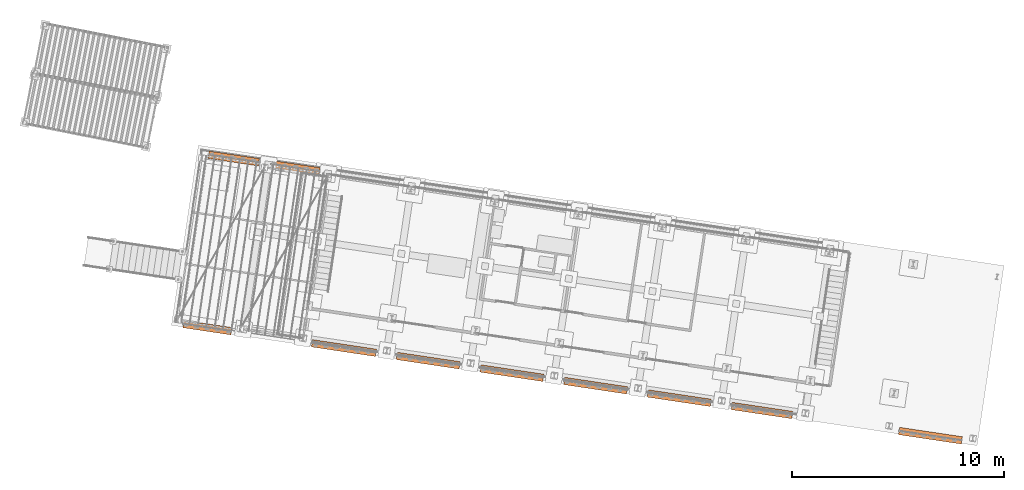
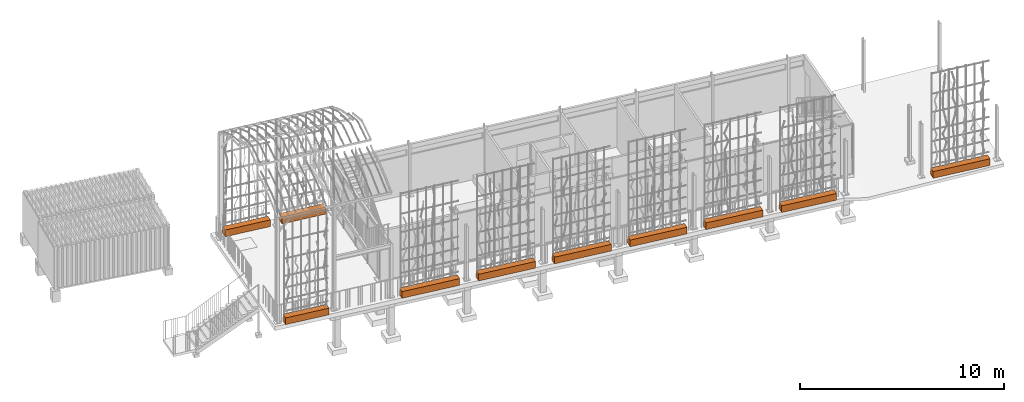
# One storey, part 142 of 142: 10 proxies, 1 element without a shape of its own.
"""IFC4 building model written with IfcOpenShell, lengths in metres."""

from ifc_helpers import new_model, si_unit, direction, frame, origin_with_axes, place, context, subcontext, project, spatial, polyline, outline, extrude, material, element, aggregate, save


model = new_model("IFC4")

# Units and contexts
model_context = context("Model", 3, precision=1e-05, world=origin_with_axes(), true_north=direction((0.0, 1.0)))
body_context = subcontext(model_context, "Body", "Model", "MODEL_VIEW")
ifc_project = project(units=[si_unit("LENGTHUNIT", "METRE"), si_unit("AREAUNIT", "SQUARE_METRE"), si_unit("VOLUMEUNIT", "CUBIC_METRE")], contexts=[model_context])

# Site, building, storey
site_placement = place(None, origin_with_axes())
site = spatial("IfcSite", under=ifc_project, at=site_placement, Name="Lares · Rua das Mercês · artigo 4771")
building_placement = place(site_placement, frame((15.0, 9.7, 14.65), z_axis=(0.0, 0.0, 1.0), x_axis=(0.989015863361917, -0.147809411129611, 0.0)))
building = spatial("IfcBuilding", under=site, at=building_placement, Name="Casa Sobreposta")
storey_placement = place(building_placement, origin_with_axes())
storey = spatial("IfcBuildingStorey", under=building, at=storey_placement, Name="00 · Habitação e estacionamento", Elevation=14.65)

# Assembly, proxies
assembly_placement = place(storey_placement, origin_with_axes())
assembly = element("IfcElementAssembly", 1, at=assembly_placement, inside=storey, Name="Fachada sul e pátio · estrutura e trepadeiras", ObjectType="LIVING_SHADE_TRELLIS", PredefinedType="USERDEFINED")
ifc_material = material(Name="Betão armado / Stahlbeton", Category="concrete")
proxy_1_placement = place(assembly_placement, frame((0.0, 0.0, -0.04), z_axis=(0.0, 0.0, 1.0), x_axis=(1.0, 0.0, 0.0)))
proxy_1 = element("IfcBuildingElementProxy", 2, at=proxy_1_placement, material=ifc_material, Name="Trepadeiras · floreira", ObjectType="Trepadeiras · floreira", PredefinedType="USERDEFINED", context=body_context, shape_type="SweptSolid", body=[
    extrude(outline(polyline([(-3.4, -1.785), (-3.4, -1.435), (-5.7, -1.435), (-5.7, -1.785), (-3.4, -1.785)])), origin_with_axes(), (0.0, 0.0, 1.0), 0.4),
])
proxy_2_placement = place(assembly_placement, frame((0.0, 0.0, -0.04), z_axis=(0.0, 0.0, 1.0), x_axis=(1.0, 0.0, 0.0)))
proxy_2 = element("IfcBuildingElementProxy", 3, at=proxy_2_placement, material=ifc_material, Name="Trepadeiras · floreira", ObjectType="Trepadeiras · floreira", PredefinedType="USERDEFINED", context=body_context, shape_type="SweptSolid", body=[
    extrude(outline(polyline([(3.5, -1.785), (3.5, -1.435), (0.45, -1.435), (0.45, -1.785), (3.5, -1.785)])), origin_with_axes(), (0.0, 0.0, 1.0), 0.4),
])
proxy_3_placement = place(assembly_placement, frame((0.0, 0.0, -0.04), z_axis=(0.0, 0.0, 1.0), x_axis=(1.0, 0.0, 0.0)))
proxy_3 = element("IfcBuildingElementProxy", 4, at=proxy_3_placement, material=ifc_material, Name="Trepadeiras · floreira", ObjectType="Trepadeiras · floreira", PredefinedType="USERDEFINED", context=body_context, shape_type="SweptSolid", body=[
    extrude(outline(polyline([(7.5, -1.785), (7.5, -1.435), (4.5, -1.435), (4.5, -1.785), (7.5, -1.785)])), origin_with_axes(), (0.0, 0.0, 1.0), 0.4),
])
proxy_4_placement = place(assembly_placement, frame((0.0, 0.0, -0.04), z_axis=(0.0, 0.0, 1.0), x_axis=(1.0, 0.0, 0.0)))
proxy_4 = element("IfcBuildingElementProxy", 5, at=proxy_4_placement, material=ifc_material, Name="Trepadeiras · floreira", ObjectType="Trepadeiras · floreira", PredefinedType="USERDEFINED", context=body_context, shape_type="SweptSolid", body=[
    extrude(outline(polyline([(11.5, -1.785), (11.5, -1.435), (8.5, -1.435), (8.5, -1.785), (11.5, -1.785)])), origin_with_axes(), (0.0, 0.0, 1.0), 0.4),
])
proxy_5_placement = place(assembly_placement, frame((0.0, 0.0, -0.04), z_axis=(0.0, 0.0, 1.0), x_axis=(1.0, 0.0, 0.0)))
proxy_5 = element("IfcBuildingElementProxy", 6, at=proxy_5_placement, material=ifc_material, Name="Trepadeiras · floreira", ObjectType="Trepadeiras · floreira", PredefinedType="USERDEFINED", context=body_context, shape_type="SweptSolid", body=[
    extrude(outline(polyline([(15.5, -1.785), (15.5, -1.435), (12.5, -1.435), (12.5, -1.785), (15.5, -1.785)])), origin_with_axes(), (0.0, 0.0, 1.0), 0.4),
])
proxy_6_placement = place(assembly_placement, frame((0.0, 0.0, -0.04), z_axis=(0.0, 0.0, 1.0), x_axis=(1.0, 0.0, 0.0)))
proxy_6 = element("IfcBuildingElementProxy", 7, at=proxy_6_placement, material=ifc_material, Name="Trepadeiras · floreira", ObjectType="Trepadeiras · floreira", PredefinedType="USERDEFINED", context=body_context, shape_type="SweptSolid", body=[
    extrude(outline(polyline([(19.5, -1.785), (19.5, -1.435), (16.5, -1.435), (16.5, -1.785), (19.5, -1.785)])), origin_with_axes(), (0.0, 0.0, 1.0), 0.4),
])
proxy_7_placement = place(assembly_placement, frame((0.0, 0.0, -0.04), z_axis=(0.0, 0.0, 1.0), x_axis=(1.0, 0.0, 0.0)))
proxy_7 = element("IfcBuildingElementProxy", 8, at=proxy_7_placement, material=ifc_material, Name="Trepadeiras · floreira", ObjectType="Trepadeiras · floreira", PredefinedType="USERDEFINED", context=body_context, shape_type="SweptSolid", body=[
    extrude(outline(polyline([(23.4, -1.785), (23.4, -1.435), (20.5, -1.435), (20.5, -1.785), (23.4, -1.785)])), origin_with_axes(), (0.0, 0.0, 1.0), 0.4),
])
proxy_8_placement = place(assembly_placement, frame((0.0, 0.0, -0.04), z_axis=(0.0, 0.0, 1.0), x_axis=(1.0, 0.0, 0.0)))
proxy_8 = element("IfcBuildingElementProxy", 9, at=proxy_8_placement, material=ifc_material, Name="Trepadeiras · floreira", ObjectType="Trepadeiras · floreira", PredefinedType="USERDEFINED", context=body_context, shape_type="SweptSolid", body=[
    extrude(outline(polyline([(31.5, -1.785), (31.5, -1.435), (28.5, -1.435), (28.5, -1.785), (31.5, -1.785)])), origin_with_axes(), (0.0, 0.0, 1.0), 0.4),
])
proxy_9_placement = place(assembly_placement, frame((0.0, 0.0, -0.04), z_axis=(0.0, 0.0, 1.0), x_axis=(1.0, 0.0, 0.0)))
proxy_9 = element("IfcBuildingElementProxy", 10, at=proxy_9_placement, material=ifc_material, Name="Trepadeiras · floreira", ObjectType="Trepadeiras · floreira", PredefinedType="USERDEFINED", context=body_context, shape_type="SweptSolid", body=[
    extrude(outline(polyline([(-3.3, 6.305), (-3.3, 6.655), (-5.7, 6.655), (-5.7, 6.305), (-3.3, 6.305)])), origin_with_axes(), (0.0, 0.0, 1.0), 0.4),
])
proxy_10_placement = place(assembly_placement, frame((0.0, 0.0, -0.04), z_axis=(0.0, 0.0, 1.0), x_axis=(1.0, 0.0, 0.0)))
proxy_10 = element("IfcBuildingElementProxy", 11, at=proxy_10_placement, material=ifc_material, Name="Trepadeiras · floreira", ObjectType="Trepadeiras · floreira", PredefinedType="USERDEFINED", context=body_context, shape_type="SweptSolid", body=[
    extrude(outline(polyline([(-0.4, 6.305), (-0.4, 6.655), (-2.7, 6.655), (-2.7, 6.305), (-0.4, 6.305)])), origin_with_axes(), (0.0, 0.0, 1.0), 0.4),
])
aggregate(assembly, [proxy_1, proxy_2, proxy_3, proxy_4, proxy_5, proxy_6, proxy_7, proxy_8, proxy_9, proxy_10])

save(model, "model.ifc")
